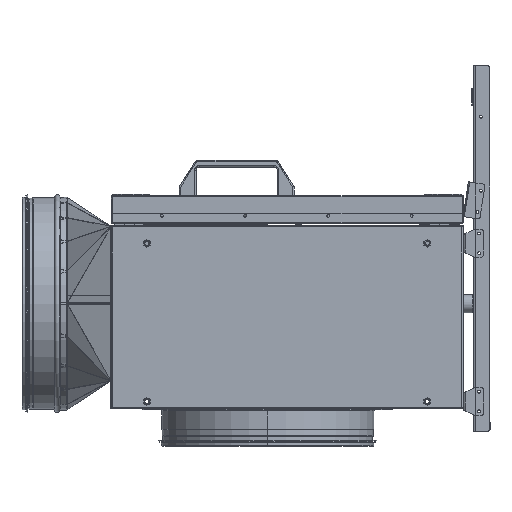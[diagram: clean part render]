
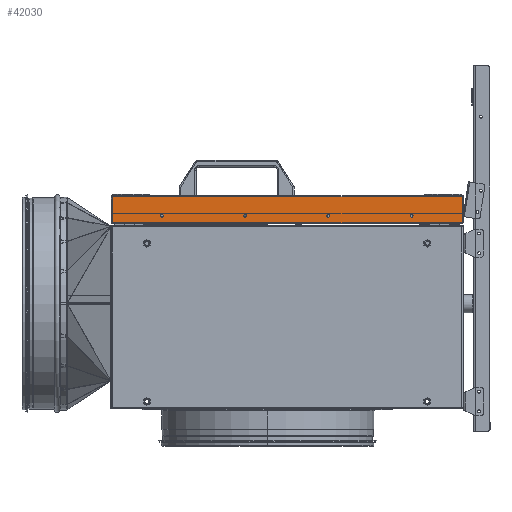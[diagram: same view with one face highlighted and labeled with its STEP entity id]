
A CAD part, left-side view. The second image highlights one B-rep face of the part: STEP entity #42030.
In plain terms, the highlighted planar face has unit normal (-1, 0, 0).
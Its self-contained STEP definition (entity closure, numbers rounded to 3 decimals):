
#482 = ORIENTED_EDGE ( 'NONE', *, *, #41561, .T. ) ;
#568 = ORIENTED_EDGE ( 'NONE', *, *, #41107, .T. ) ;
#736 = ORIENTED_EDGE ( 'NONE', *, *, #41522, .T. ) ;
#889 = ORIENTED_EDGE ( 'NONE', *, *, #41947, .T. ) ;
#1004 = ORIENTED_EDGE ( 'NONE', *, *, #40902, .T. ) ;
#3646 = CARTESIAN_POINT ( 'NONE',  ( -296.03, -183.96, 283.3 ) ) ;
#4249 = CARTESIAN_POINT ( 'NONE',  ( -296.03, 185.04, 287.5 ) ) ;
#4439 = CARTESIAN_POINT ( 'NONE',  ( -296.03, 62.04, 283.3 ) ) ;
#8101 = VERTEX_POINT ( 'NONE', #58377 ) ;
#8133 = VERTEX_POINT ( 'NONE', #59782 ) ;
#8307 = VERTEX_POINT ( 'NONE', #59596 ) ;
#8372 = VERTEX_POINT ( 'NONE', #58163 ) ;
#8816 = VERTEX_POINT ( 'NONE', #97217 ) ;
#8858 = VERTEX_POINT ( 'NONE', #97054 ) ;
#8994 = VERTEX_POINT ( 'NONE', #95561 ) ;
#9424 = CARTESIAN_POINT ( 'NONE',  ( -296.03, 185.04, 285.4 ) ) ;
#9425 = DIRECTION ( 'NONE',  ( 1., 0., 0. ) ) ;
#9426 = DIRECTION ( 'NONE',  ( 0., 0., -1. ) ) ;
#9639 = CARTESIAN_POINT ( 'NONE',  ( -296.03, 258.04, 313.4 ) ) ;
#9641 = DIRECTION ( 'NONE',  ( 0., 0., -1. ) ) ;
#9761 = CARTESIAN_POINT ( 'NONE',  ( -296.03, -183.96, 285.4 ) ) ;
#9763 = DIRECTION ( 'NONE',  ( 1., 0., 0. ) ) ;
#9764 = DIRECTION ( 'NONE',  ( 0., 0., -1. ) ) ;
#9951 = CARTESIAN_POINT ( 'NONE',  ( -296.03, 185.04, 285.4 ) ) ;
#9952 = DIRECTION ( 'NONE',  ( 1., 0., 0. ) ) ;
#9954 = DIRECTION ( 'NONE',  ( 0., 0., -1. ) ) ;
#15053 = VERTEX_POINT ( 'NONE', #4439 ) ;
#15068 = VERTEX_POINT ( 'NONE', #3646 ) ;
#15114 = VERTEX_POINT ( 'NONE', #4249 ) ;
#15637 = VERTEX_POINT ( 'NONE', #79567 ) ;
#15908 = VERTEX_POINT ( 'NONE', #77526 ) ;
#19509 = DIRECTION ( 'NONE',  ( 0., 0., 1. ) ) ;
#19514 = CARTESIAN_POINT ( 'NONE',  ( -296.03, -258.84, 274.9 ) ) ;
#25424 = CIRCLE ( 'NONE', #50904, 2.1 ) ;
#25733 = CIRCLE ( 'NONE', #51189, 2.1 ) ;
#25831 = CIRCLE ( 'NONE', #51242, 2.1 ) ;
#26169 = LINE ( 'NONE', #32633, #26171 ) ;
#26171 = VECTOR ( 'NONE', #32632, 1000. ) ;
#26262 = CIRCLE ( 'NONE', #51390, 2.1 ) ;
#26269 = VECTOR ( 'NONE', #32753, 1000. ) ;
#26275 = LINE ( 'NONE', #32752, #26269 ) ;
#26386 = CIRCLE ( 'NONE', #51446, 2.1 ) ;
#26479 = VECTOR ( 'NONE', #9641, 1000. ) ;
#26498 = LINE ( 'NONE', #9639, #26479 ) ;
#26562 = CIRCLE ( 'NONE', #51525, 2.1 ) ;
#26662 = CIRCLE ( 'NONE', #51642, 2.1 ) ;
#29186 = CARTESIAN_POINT ( 'NONE',  ( -296.03, -183.96, 285.4 ) ) ;
#29187 = DIRECTION ( 'NONE',  ( 1., 0., 0. ) ) ;
#29189 = DIRECTION ( 'NONE',  ( 0., 0., -1. ) ) ;
#29437 = CARTESIAN_POINT ( 'NONE',  ( -296.03, 259.24, 314.6 ) ) ;
#29438 = PLANE ( 'NONE',  #52281 ) ;
#29445 = DIRECTION ( 'NONE',  ( 1., 0., 0. ) ) ;
#29447 = DIRECTION ( 'NONE',  ( 0., 0., -1. ) ) ;
#31925 = CARTESIAN_POINT ( 'NONE',  ( -296.03, -60.96, 285.4 ) ) ;
#31926 = DIRECTION ( 'NONE',  ( 1., 0., 0. ) ) ;
#31928 = DIRECTION ( 'NONE',  ( 0., 0., -1. ) ) ;
#32190 = CARTESIAN_POINT ( 'NONE',  ( -296.03, 62.04, 285.4 ) ) ;
#32192 = DIRECTION ( 'NONE',  ( 1., 0., 0. ) ) ;
#32194 = DIRECTION ( 'NONE',  ( 0., 0., -1. ) ) ;
#32632 = DIRECTION ( 'NONE',  ( 0., -1., 0. ) ) ;
#32633 = CARTESIAN_POINT ( 'NONE',  ( -296.03, 259.24, 313.4 ) ) ;
#32699 = CARTESIAN_POINT ( 'NONE',  ( -296.03, 62.04, 285.4 ) ) ;
#32700 = DIRECTION ( 'NONE',  ( 1., 0., 0. ) ) ;
#32701 = DIRECTION ( 'NONE',  ( 0., 0., -1. ) ) ;
#32752 = CARTESIAN_POINT ( 'NONE',  ( -296.03, -260.04, 274.9 ) ) ;
#32753 = DIRECTION ( 'NONE',  ( 0., -1., 0. ) ) ;
#34265 = CIRCLE ( 'NONE', #52175, 2.1 ) ;
#34349 = FACE_BOUND ( 'NONE', #78201, .T. ) ;
#34350 = FACE_BOUND ( 'NONE', #78169, .T. ) ;
#34352 = FACE_OUTER_BOUND ( 'NONE', #78128, .T. ) ;
#34353 = FACE_BOUND ( 'NONE', #78131, .T. ) ;
#34354 = FACE_BOUND ( 'NONE', #78115, .T. ) ;
#35555 = ORIENTED_EDGE ( 'NONE', *, *, #41150, .T. ) ;
#35598 = ORIENTED_EDGE ( 'NONE', *, *, #41409, .T. ) ;
#40293 = EDGE_CURVE ( 'NONE', #8307, #15637, #71421, .T. ) ;
#40902 = EDGE_CURVE ( 'NONE', #8816, #8858, #25424, .T. ) ;
#41107 = EDGE_CURVE ( 'NONE', #8858, #8816, #25733, .T. ) ;
#41150 = EDGE_CURVE ( 'NONE', #15053, #8994, #25831, .T. ) ;
#41366 = EDGE_CURVE ( 'NONE', #15908, #15637, #26169, .T. ) ;
#41409 = EDGE_CURVE ( 'NONE', #8994, #15053, #26262, .T. ) ;
#41413 = EDGE_CURVE ( 'NONE', #8372, #8307, #26275, .T. ) ;
#41492 = EDGE_CURVE ( 'NONE', #8101, #15114, #26386, .T. ) ;
#41522 = EDGE_CURVE ( 'NONE', #15908, #8372, #26498, .T. ) ;
#41561 = EDGE_CURVE ( 'NONE', #8133, #15068, #26562, .T. ) ;
#41613 = EDGE_CURVE ( 'NONE', #15114, #8101, #26662, .T. ) ;
#41947 = EDGE_CURVE ( 'NONE', #15068, #8133, #34265, .T. ) ;
#42030 = ADVANCED_FACE ( 'NONE', ( #34349, #34353, #34352, #34350, #34354 ), #29438, .F. ) ;
#50904 = AXIS2_PLACEMENT_3D ( 'NONE', #95775, #95778, #95781 ) ;
#51189 = AXIS2_PLACEMENT_3D ( 'NONE', #31925, #31926, #31928 ) ;
#51242 = AXIS2_PLACEMENT_3D ( 'NONE', #32190, #32192, #32194 ) ;
#51390 = AXIS2_PLACEMENT_3D ( 'NONE', #32699, #32700, #32701 ) ;
#51446 = AXIS2_PLACEMENT_3D ( 'NONE', #9424, #9425, #9426 ) ;
#51525 = AXIS2_PLACEMENT_3D ( 'NONE', #9761, #9763, #9764 ) ;
#51642 = AXIS2_PLACEMENT_3D ( 'NONE', #9951, #9952, #9954 ) ;
#52175 = AXIS2_PLACEMENT_3D ( 'NONE', #29186, #29187, #29189 ) ;
#52281 = AXIS2_PLACEMENT_3D ( 'NONE', #29437, #29445, #29447 ) ;
#58163 = CARTESIAN_POINT ( 'NONE',  ( -296.03, 258.04, 274.9 ) ) ;
#58377 = CARTESIAN_POINT ( 'NONE',  ( -296.03, 185.04, 283.3 ) ) ;
#59596 = CARTESIAN_POINT ( 'NONE',  ( -296.03, -258.84, 274.9 ) ) ;
#59782 = CARTESIAN_POINT ( 'NONE',  ( -296.03, -183.96, 287.5 ) ) ;
#71421 = LINE ( 'NONE', #19514, #71433 ) ;
#71433 = VECTOR ( 'NONE', #19509, 1000. ) ;
#73787 = ORIENTED_EDGE ( 'NONE', *, *, #41613, .T. ) ;
#73981 = ORIENTED_EDGE ( 'NONE', *, *, #41492, .T. ) ;
#74266 = ORIENTED_EDGE ( 'NONE', *, *, #41366, .F. ) ;
#74344 = ORIENTED_EDGE ( 'NONE', *, *, #41413, .T. ) ;
#74819 = ORIENTED_EDGE ( 'NONE', *, *, #40293, .T. ) ;
#77526 = CARTESIAN_POINT ( 'NONE',  ( -296.03, 258.04, 313.4 ) ) ;
#78115 = EDGE_LOOP ( 'NONE', ( #889, #482 ) ) ;
#78128 = EDGE_LOOP ( 'NONE', ( #736, #74344, #74819, #74266 ) ) ;
#78131 = EDGE_LOOP ( 'NONE', ( #73981, #73787 ) ) ;
#78169 = EDGE_LOOP ( 'NONE', ( #568, #1004 ) ) ;
#78201 = EDGE_LOOP ( 'NONE', ( #35555, #35598 ) ) ;
#79567 = CARTESIAN_POINT ( 'NONE',  ( -296.03, -258.84, 313.4 ) ) ;
#95561 = CARTESIAN_POINT ( 'NONE',  ( -296.03, 62.04, 287.5 ) ) ;
#95775 = CARTESIAN_POINT ( 'NONE',  ( -296.03, -60.96, 285.4 ) ) ;
#95778 = DIRECTION ( 'NONE',  ( 1., 0., 0. ) ) ;
#95781 = DIRECTION ( 'NONE',  ( 0., 0., -1. ) ) ;
#97054 = CARTESIAN_POINT ( 'NONE',  ( -296.03, -60.96, 283.3 ) ) ;
#97217 = CARTESIAN_POINT ( 'NONE',  ( -296.03, -60.96, 287.5 ) ) ;
